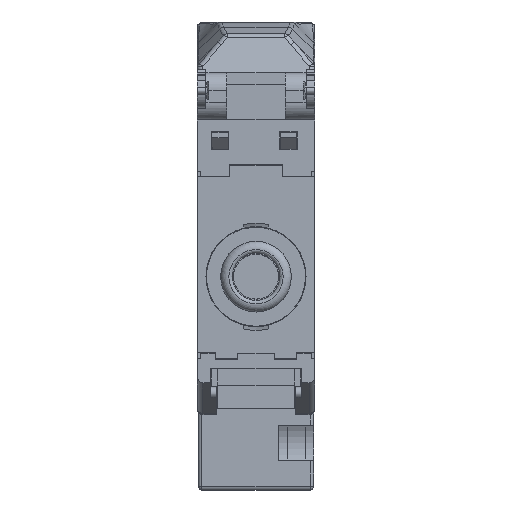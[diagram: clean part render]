
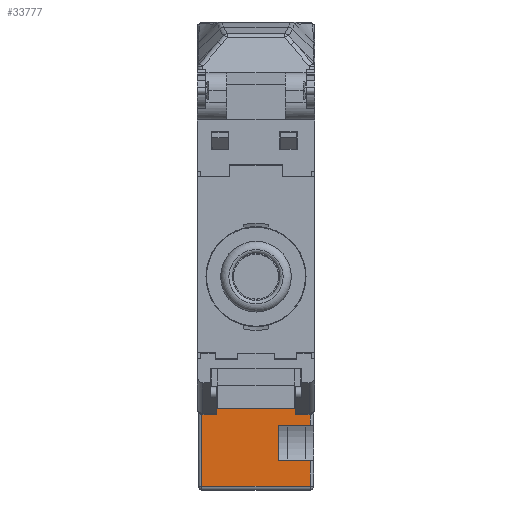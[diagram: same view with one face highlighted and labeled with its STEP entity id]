
A CAD part, left-side view. The second image highlights one B-rep face of the part: STEP entity #33777.
In plain terms, the highlighted planar face has unit normal (-1, 0, 0).
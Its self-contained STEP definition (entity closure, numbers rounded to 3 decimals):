
#3618=FACE_OUTER_BOUND('',#5425,.T.);
#5425=EDGE_LOOP('',(#27853,#27854,#27855,#27856,#27857,#27858,#27859,#27860,
#27861,#27862,#27863,#27864,#27865,#27866,#27867,#27868));
#8513=LINE('',#63376,#11819);
#8514=LINE('',#63379,#11820);
#8515=LINE('',#63381,#11821);
#8516=LINE('',#63383,#11822);
#8517=LINE('',#63385,#11823);
#8518=LINE('',#63387,#11824);
#8519=LINE('',#63389,#11825);
#8520=LINE('',#63391,#11826);
#8521=LINE('',#63392,#11827);
#8522=LINE('',#63394,#11828);
#8523=LINE('',#63396,#11829);
#8524=LINE('',#63398,#11830);
#8525=LINE('',#63400,#11831);
#8526=LINE('',#63402,#11832);
#8527=LINE('',#63404,#11833);
#8528=LINE('',#63405,#11834);
#11819=VECTOR('',#43708,0.9);
#11820=VECTOR('',#43711,1.4);
#11821=VECTOR('',#43712,3.);
#11822=VECTOR('',#43713,1.4);
#11823=VECTOR('',#43714,1.4);
#11824=VECTOR('',#43715,1.4);
#11825=VECTOR('',#43716,3.);
#11826=VECTOR('',#43717,1.4);
#11827=VECTOR('',#43718,0.9);
#11828=VECTOR('',#43719,7.4);
#11829=VECTOR('',#43720,9.2);
#11830=VECTOR('',#43721,2.2);
#11831=VECTOR('',#43722,2.7);
#11832=VECTOR('',#43723,3.);
#11833=VECTOR('',#43724,2.7);
#11834=VECTOR('',#43725,2.2);
#14887=VERTEX_POINT('',#63340);
#14894=VERTEX_POINT('',#63366);
#14897=VERTEX_POINT('',#63374);
#14898=VERTEX_POINT('',#63378);
#14899=VERTEX_POINT('',#63380);
#14900=VERTEX_POINT('',#63382);
#14901=VERTEX_POINT('',#63384);
#14902=VERTEX_POINT('',#63386);
#14903=VERTEX_POINT('',#63388);
#14904=VERTEX_POINT('',#63390);
#14905=VERTEX_POINT('',#63393);
#14906=VERTEX_POINT('',#63395);
#14907=VERTEX_POINT('',#63397);
#14908=VERTEX_POINT('',#63399);
#14909=VERTEX_POINT('',#63401);
#14910=VERTEX_POINT('',#63403);
#19314=EDGE_CURVE('',#14897,#14894,#8513,.T.);
#19315=EDGE_CURVE('',#14898,#14897,#8514,.T.);
#19316=EDGE_CURVE('',#14898,#14899,#8515,.T.);
#19317=EDGE_CURVE('',#14899,#14900,#8516,.T.);
#19318=EDGE_CURVE('',#14900,#14901,#8517,.T.);
#19319=EDGE_CURVE('',#14902,#14901,#8518,.T.);
#19320=EDGE_CURVE('',#14902,#14903,#8519,.T.);
#19321=EDGE_CURVE('',#14903,#14904,#8520,.T.);
#19322=EDGE_CURVE('',#14887,#14904,#8521,.T.);
#19323=EDGE_CURVE('',#14887,#14905,#8522,.T.);
#19324=EDGE_CURVE('',#14905,#14906,#8523,.T.);
#19325=EDGE_CURVE('',#14906,#14907,#8524,.T.);
#19326=EDGE_CURVE('',#14907,#14908,#8525,.T.);
#19327=EDGE_CURVE('',#14909,#14908,#8526,.T.);
#19328=EDGE_CURVE('',#14910,#14909,#8527,.T.);
#19329=EDGE_CURVE('',#14910,#14894,#8528,.T.);
#27853=ORIENTED_EDGE('',*,*,#19314,.F.);
#27854=ORIENTED_EDGE('',*,*,#19315,.F.);
#27855=ORIENTED_EDGE('',*,*,#19316,.T.);
#27856=ORIENTED_EDGE('',*,*,#19317,.T.);
#27857=ORIENTED_EDGE('',*,*,#19318,.T.);
#27858=ORIENTED_EDGE('',*,*,#19319,.F.);
#27859=ORIENTED_EDGE('',*,*,#19320,.T.);
#27860=ORIENTED_EDGE('',*,*,#19321,.T.);
#27861=ORIENTED_EDGE('',*,*,#19322,.F.);
#27862=ORIENTED_EDGE('',*,*,#19323,.T.);
#27863=ORIENTED_EDGE('',*,*,#19324,.T.);
#27864=ORIENTED_EDGE('',*,*,#19325,.T.);
#27865=ORIENTED_EDGE('',*,*,#19326,.T.);
#27866=ORIENTED_EDGE('',*,*,#19327,.F.);
#27867=ORIENTED_EDGE('',*,*,#19328,.F.);
#27868=ORIENTED_EDGE('',*,*,#19329,.T.);
#30479=PLANE('',#36228);
#33777=ADVANCED_FACE('',(#3618),#30479,.F.);
#36228=AXIS2_PLACEMENT_3D('',#63377,#43709,#43710);
#43708=DIRECTION('',(0.,-1.,0.));
#43709=DIRECTION('center_axis',(1.,0.,0.));
#43710=DIRECTION('ref_axis',(0.,0.,-1.));
#43711=DIRECTION('',(0.,0.,-1.));
#43712=DIRECTION('',(0.,1.,0.));
#43713=DIRECTION('',(0.,0.,-1.));
#43714=DIRECTION('',(0.,1.,0.));
#43715=DIRECTION('',(0.,0.,-1.));
#43716=DIRECTION('',(0.,1.,0.));
#43717=DIRECTION('',(0.,0.,-1.));
#43718=DIRECTION('',(0.,-1.,0.));
#43719=DIRECTION('',(0.,0.,-1.));
#43720=DIRECTION('',(0.,-1.,0.));
#43721=DIRECTION('',(0.,0.,1.));
#43722=DIRECTION('',(0.,1.,0.));
#43723=DIRECTION('',(0.,0.,-1.));
#43724=DIRECTION('',(0.,1.,0.));
#43725=DIRECTION('',(0.,0.,1.));
#63340=CARTESIAN_POINT('',(10.774,42.151,-0.346));
#63366=CARTESIAN_POINT('',(10.774,32.951,-0.346));
#63374=CARTESIAN_POINT('',(10.774,33.851,-0.346));
#63376=CARTESIAN_POINT('',(10.774,33.851,-0.346));
#63377=CARTESIAN_POINT('Origin',(10.774,32.651,-8.046));
#63378=CARTESIAN_POINT('',(10.774,33.851,1.054));
#63379=CARTESIAN_POINT('',(10.774,33.851,1.054));
#63380=CARTESIAN_POINT('',(10.774,36.851,1.054));
#63381=CARTESIAN_POINT('',(10.774,33.851,1.054));
#63382=CARTESIAN_POINT('',(10.774,36.851,-0.346));
#63383=CARTESIAN_POINT('',(10.774,36.851,1.054));
#63384=CARTESIAN_POINT('',(10.774,38.251,-0.346));
#63385=CARTESIAN_POINT('',(10.774,36.851,-0.346));
#63386=CARTESIAN_POINT('',(10.774,38.251,1.054));
#63387=CARTESIAN_POINT('',(10.774,38.251,1.054));
#63388=CARTESIAN_POINT('',(10.774,41.251,1.054));
#63389=CARTESIAN_POINT('',(10.774,38.251,1.054));
#63390=CARTESIAN_POINT('',(10.774,41.251,-0.346));
#63391=CARTESIAN_POINT('',(10.774,41.251,1.054));
#63392=CARTESIAN_POINT('',(10.774,42.151,-0.346));
#63393=CARTESIAN_POINT('',(10.774,42.151,-7.746));
#63394=CARTESIAN_POINT('',(10.774,42.151,-0.346));
#63395=CARTESIAN_POINT('',(10.774,32.951,-7.746));
#63396=CARTESIAN_POINT('',(10.774,42.151,-7.746));
#63397=CARTESIAN_POINT('',(10.774,32.951,-5.546));
#63398=CARTESIAN_POINT('',(10.774,32.951,-7.746));
#63399=CARTESIAN_POINT('',(10.774,35.651,-5.546));
#63400=CARTESIAN_POINT('',(10.774,32.951,-5.546));
#63401=CARTESIAN_POINT('',(10.774,35.651,-2.546));
#63402=CARTESIAN_POINT('',(10.774,35.651,-2.546));
#63403=CARTESIAN_POINT('',(10.774,32.951,-2.546));
#63404=CARTESIAN_POINT('',(10.774,32.951,-2.546));
#63405=CARTESIAN_POINT('',(10.774,32.951,-2.546));
